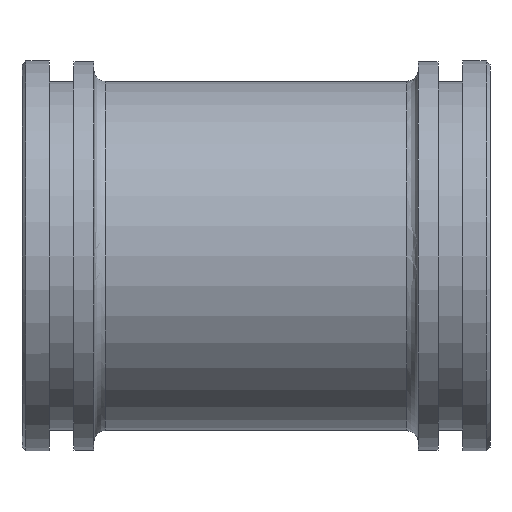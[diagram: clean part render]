
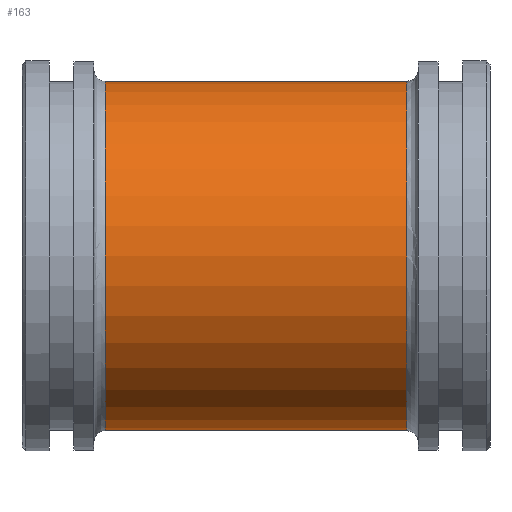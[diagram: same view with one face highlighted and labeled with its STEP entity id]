
A CAD part, front view. The second image highlights one B-rep face of the part: STEP entity #163.
In plain terms, the highlighted cylindrical face has radius 44.75 mm (diameter 89.5 mm), a full revolution.
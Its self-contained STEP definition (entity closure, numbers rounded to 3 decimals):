
#121=CARTESIAN_POINT('',(38.7,44.75,0.0));
#122=VERTEX_POINT('',#121);
#123=CARTESIAN_POINT('',(38.7,0.0,0.0));
#124=DIRECTION('',(1.0,0.0,0.0));
#125=DIRECTION('',(0.0,-1.0,0.0));
#126=AXIS2_PLACEMENT_3D('',#123,#124,#125);
#127=CIRCLE('',#126,44.75);
#128=EDGE_CURVE('',#122,#122,#127,.T.);
#144=CARTESIAN_POINT('',(0.,0.0,0.0));
#145=DIRECTION('',(1.0,0.0,0.0));
#146=DIRECTION('',(0.0,1.0,0.0));
#147=AXIS2_PLACEMENT_3D('',#144,#145,#146);
#148=CYLINDRICAL_SURFACE('',#147,44.75);
#149=CARTESIAN_POINT('',(-38.7,44.75,0.));
#150=VERTEX_POINT('',#149);
#151=CARTESIAN_POINT('',(-38.7,0.0,0.0));
#152=DIRECTION('',(-1.0,0.0,0.0));
#153=DIRECTION('',(0.0,-1.0,0.0));
#154=AXIS2_PLACEMENT_3D('',#151,#152,#153);
#155=CIRCLE('',#154,44.75);
#156=EDGE_CURVE('',#150,#150,#155,.T.);
#157=ORIENTED_EDGE('',*,*,#156,.F.);
#158=EDGE_LOOP('',(#157));
#159=FACE_OUTER_BOUND('',#158,.T.);
#160=ORIENTED_EDGE('',*,*,#128,.F.);
#161=EDGE_LOOP('',(#160));
#162=FACE_BOUND('',#161,.T.);
#163=ADVANCED_FACE('',(#159,#162),#148,.T.);
